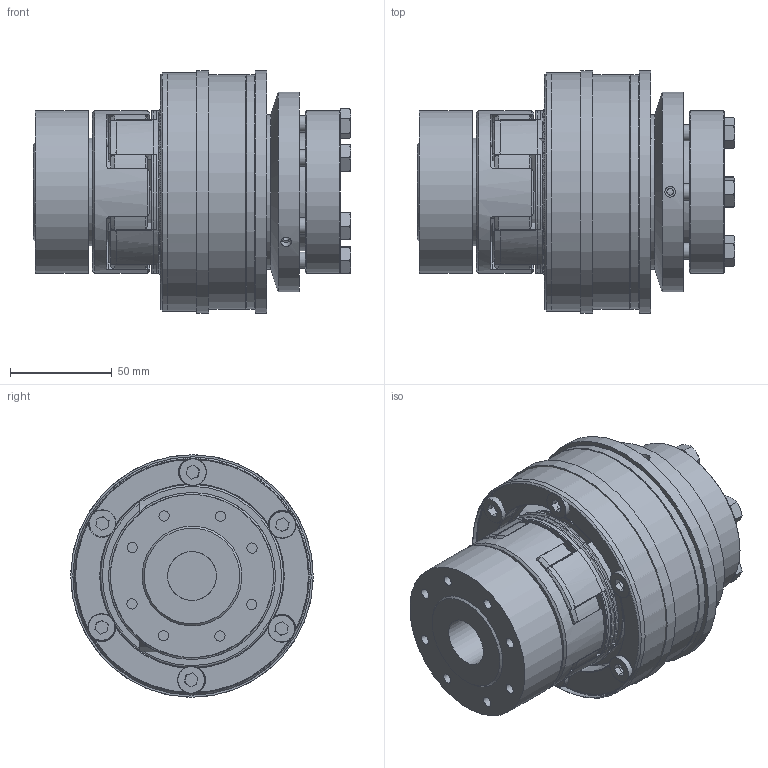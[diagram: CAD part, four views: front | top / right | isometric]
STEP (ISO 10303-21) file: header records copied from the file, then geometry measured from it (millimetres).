
FILE_DESCRIPTION( ( 'Unknown' ), '1' );
FILE_NAME( 'C:/Dokumente und Einstellungen/Sven/Desktop/hp kbk/E-AA/KBK EAA-38-153.stp', 'Unknown', ( 'Unknown' ), ( 'Unknown' ), 'XStep 1.0', 'Unknown', ' ' );
FILE_SCHEMA( ( 'automotive_design' ) );
Length unit declared in the file: millimetre
Products named in the file (19): Assem1; Assem2; Assem3; Assem4; ball_bearing_-_6011_0_01; ball_bearing_-_6011_0_02; ball_bearing_-_6011_0_03; Zylinderschraube DIN 912_4; KBK L-A-300 Grundkörper; Druckring L-A-300; Flansch 300; Stellring 300; Druckring 300; a_55; din_en_24017_m8x30; Elastomerflansch 38; Zahnkranz_38_Standard; KBE3-38_Druckring; KBE3 C - 38 Nabe
Bounding box: 155.7 x 119 x 119 mm (x, y, z)
Volume: 1769611.3 mm3; surface area: 536723.1 mm2
Topology: 44 solids, 44 shells, 1087 faces, 2462 edges, 1572 vertices
Faces by surface type: cylinder 376, plane 363, cone 294, torus 54
Full cylindrical faces by diameter (mm): 2.5 x4, 3.242 x6, 4.917 x8, 5 x32, 5.2 x6, 6.5 x16, 6.647 x24, 8 x15, 8.2 x12, 8.5 x12, 11 x16, 11.63 x7, 13 x8, 13.2 x12, 24 x2, 25 x2, 38 x4, 40 x2, 46 x2, 48 x2, 52 x2, 53 x2, 55 x7, 57.995 x2, 66.3 x6, 76 x4, 79.1 x6, 80 x8, 83.5 x2, 88 x2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
Entity records: 13408 total; most frequent: CARTESIAN_POINT 2747, DIRECTION 2154, ORIENTED_EDGE 1610, AXIS2_PLACEMENT_3D 1010, EDGE_CURVE 805, EDGE_LOOP 734, VERTEX_POINT 593, FACE_OUTER_BOUND 564
